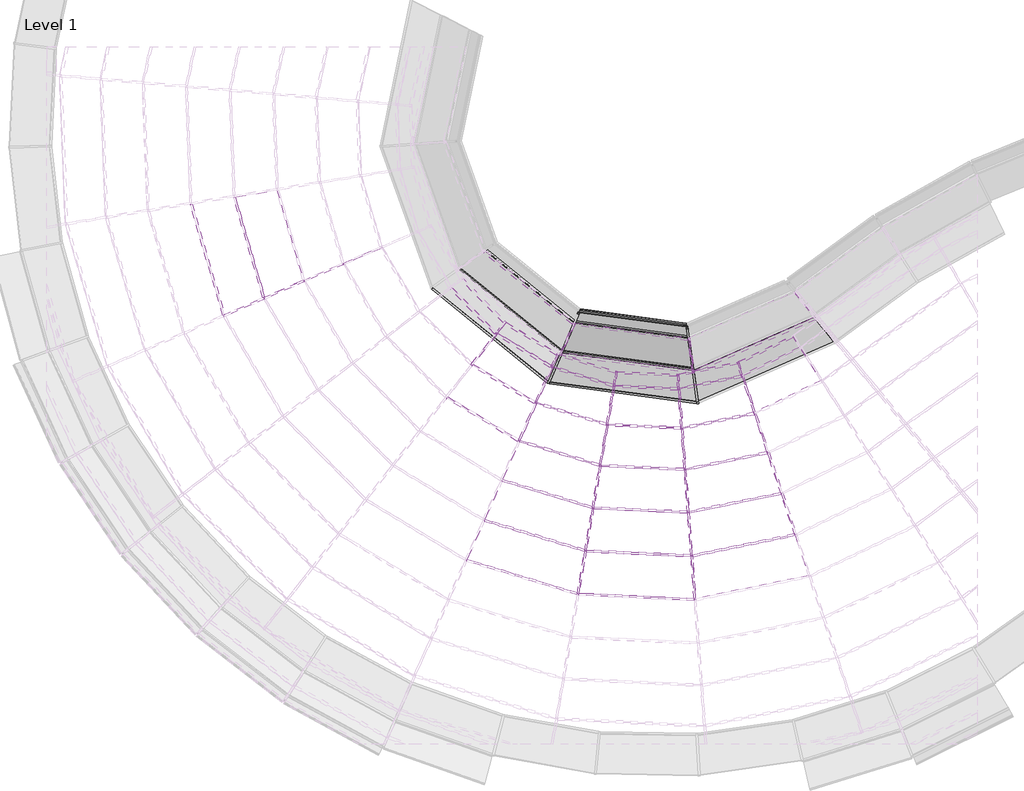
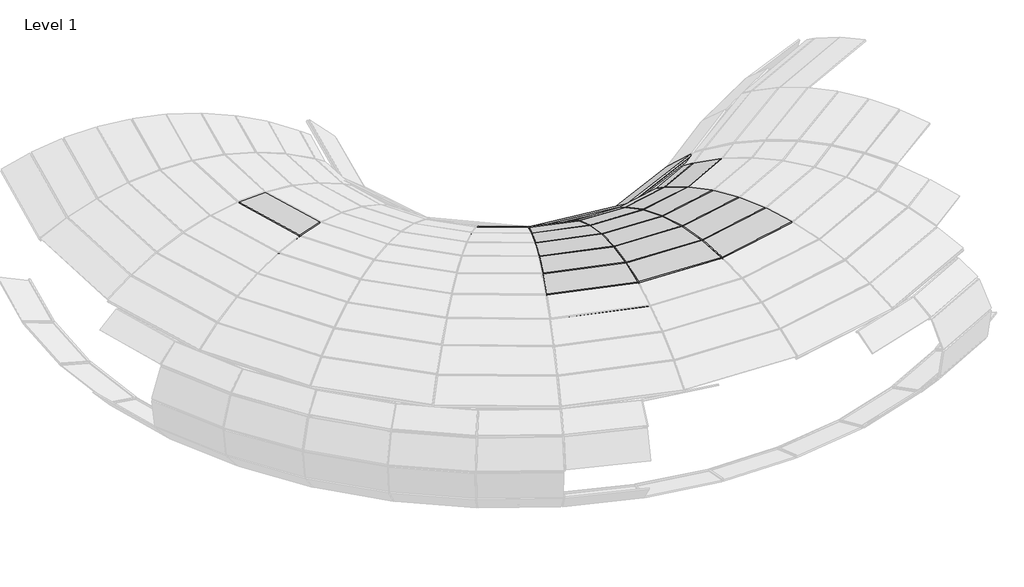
# One storey, part 5 of 23: 75 members, 29 plates.
"""IFC4 building model written with IfcOpenShell, lengths in millimetres."""

from ifc_helpers import new_model, si_unit, origin, place, context, project, spatial, transform, mapped, element, save
from components import member_0cd36c09, member_d0a40a1c, member_ff9adfd2, member_8c9da58c, member_391bee44, member_01ebdf2a, member_d6b8231b, member_c876edb5, member_782630c7, member_398e5ff5, member_01d9c279, member_398607d0, member_5ccaa950, member_8174f0e4, member_18f2ae55, member_299080b6, member_cb0bb3a9, member_172ab1ab, member_54499f2f, member_c8b9029b, system_panel_glazed_1f33159c, system_panel_glazed_b4bd1deb, system_panel_glazed_ffd0fcf6, system_panel_glazed_fd5b3178, system_panel_glazed_7646b435, system_panel_glazed_4562f0d4, system_panel_glazed_e73db01d, system_panel_glazed_0c479225, system_panel_glazed_18224c41, system_panel_glazed_5bffbcfe, system_panel_glazed_024423c3

model = new_model("IFC4")

# Units and contexts
model_context = context("Model", 3, world=origin())
ifc_project = project(units=[si_unit("LENGTHUNIT", "METRE", prefix="MILLI")], contexts=[model_context])

# Site, building, storey
site = spatial("IfcSite", under=ifc_project)
building = spatial("IfcBuilding", under=site)
storey = spatial("IfcBuildingStorey", under=building, Name="Level 1", Elevation=0.0)

# Members
placement = place(None, origin())
member_shape = member_0cd36c09(model_context)
element("IfcMember", 1, ObjectType="Rectangular Mullion : 1\" Square", at=placement, inside=storey, context=model_context, shape_type="MappedRepresentation", body=[
    mapped(member_shape, transform((-9408.8128486, -7923.9821963, 2850.17796), x_axis=(0.9970757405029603, 0.07641968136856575, 0.0), y_axis=(0.0017980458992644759, -0.023459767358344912, 0.9997231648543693), z_axis=(0.07639852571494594, -0.9967997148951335, -0.023528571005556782))),
])
element("IfcMember", 2, ObjectType="Rectangular Mullion : 1\" Square", at=placement, inside=storey, context=model_context, shape_type="MappedRepresentation", body=[
    mapped(member_shape, transform((-14848.6521933, -3488.9764572, 2806.2019711), x_axis=(0.39821020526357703, -0.9172941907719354, 0.0), y_axis=(0.19584496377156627, 0.08501903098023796, 0.9769424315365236), z_axis=(-0.8961436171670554, -0.3890284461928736, 0.2135028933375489))),
])
element("IfcMember", 3, ObjectType="Rectangular Mullion : 1\" Square", at=placement, inside=storey, context=model_context, shape_type="MappedRepresentation", body=[
    mapped(member_shape, transform((-14302.3630442, -3251.8247164, 2676.0506073), x_axis=(0.3982102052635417, -0.9172941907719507, 0.0), y_axis=(0.30114838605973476, 0.13073271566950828, 0.9445732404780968), z_axis=(-0.8664515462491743, -0.37613870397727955, 0.32830076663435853))),
])
element("IfcMember", 4, ObjectType="Rectangular Mullion : 1\" Square", at=placement, inside=storey, context=model_context, shape_type="MappedRepresentation", body=[
    mapped(member_shape, transform((-11858.0187831, -5718.3445899, 2676.0506073), x_axis=(0.9136605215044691, -0.4064781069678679, 0.0), y_axis=(0.13344707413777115, 0.2999554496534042, 0.9445732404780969), z_axis=(-0.3839483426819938, -0.8630192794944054, 0.32830076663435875))),
])
element("IfcMember", 5, ObjectType="Rectangular Mullion : 1\" Square", at=placement, inside=storey, context=model_context, shape_type="MappedRepresentation", body=[
    mapped(member_shape, transform((-10828.8451676, -6648.5143015, 2806.2019711), x_axis=(0.9854064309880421, -0.17021799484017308, 0.0), y_axis=(0.0363420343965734, 0.21038712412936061, 0.9769424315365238), z_axis=(-0.16629318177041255, -0.9626853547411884, 0.2135028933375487))),
])
element("IfcMember", 6, ObjectType="Rectangular Mullion : 1\" Square", at=placement, inside=storey, context=model_context, shape_type="MappedRepresentation", body=[
    mapped(member_shape, transform((-10727.472844, -6061.6613092, 2676.0506073), x_axis=(0.9854064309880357, -0.17021799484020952, 0.0), y_axis=(0.05588269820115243, 0.32350968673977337, 0.944573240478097), z_axis=(-0.16078336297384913, -0.9307885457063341, 0.3283007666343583))),
])
element("IfcMember", 7, ObjectType="Rectangular Mullion : 1\" Square", at=placement, inside=storey, context=model_context, shape_type="MappedRepresentation", body=[
    mapped(member_shape, transform((-9455.3853899, -7316.3330901, 2864.5209769), x_axis=(0.9970757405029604, 0.07641968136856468, 0.0), y_axis=(-0.007310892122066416, 0.09538790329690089, 0.9954133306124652), z_axis=(0.07606916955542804, -0.9925024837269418, 0.09566766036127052))),
])
element("IfcMember", 8, ObjectType="Rectangular Mullion : 1\" Square", at=placement, inside=storey, context=model_context, shape_type="MappedRepresentation", body=[
    mapped(member_shape, transform((-9501.7571556, -6711.303576, 2806.2019711), x_axis=(0.9970757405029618, 0.07641968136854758, 0.0), y_axis=(-0.01631582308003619, 0.21287855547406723, 0.9769424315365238), z_axis=(0.07465762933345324, -0.9740855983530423, 0.2135028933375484))),
])
element("IfcMember", 9, ObjectType="Rectangular Mullion : 1\" Square", at=placement, inside=storey, context=model_context, shape_type="MappedRepresentation", body=[
    mapped(member_shape, transform((-9547.2684465, -6117.5009953, 2676.0506073), x_axis=(0.9970757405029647, 0.0764196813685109, 0.0), y_axis=(-0.025088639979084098, 0.3273407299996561, 0.9445732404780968), z_axis=(0.07218398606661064, -0.9418110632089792, 0.328300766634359))),
])
element("IfcMember", 10, ObjectType="Rectangular Mullion : 1\" Square", at=placement, inside=storey, context=model_context, shape_type="MappedRepresentation", body=[
    mapped(member_shape, transform((-8006.5326853, -7022.2335982, 2864.5209769), x_axis=(0.9479570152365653, 0.31839833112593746, 0.0), y_axis=(-0.030460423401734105, 0.09068882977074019, 0.9954133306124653), z_axis=(0.3169379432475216, -0.9436090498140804, 0.09566766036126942))),
])
element("IfcMember", 11, ObjectType="Rectangular Mullion : 1\" Square", at=placement, inside=storey, context=model_context, shape_type="MappedRepresentation", body=[
    mapped(member_shape, transform((-8199.7380555, -6447.0095214, 2806.2019711), x_axis=(0.9479570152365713, 0.31839833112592, 0.0), y_axis=(-0.06797896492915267, 0.202391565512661, 0.9769424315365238), z_axis=(0.3110568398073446, -0.9260994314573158, 0.21350289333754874))),
])
element("IfcMember", 12, ObjectType="Rectangular Mullion : 1\" Square", at=placement, inside=storey, context=model_context, shape_type="MappedRepresentation", body=[
    mapped(member_shape, transform((-8389.358305, -5882.459308, 2676.0506073), x_axis=(0.9479570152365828, 0.3183983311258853, 0.0), y_axis=(-0.1045304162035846, 0.31121501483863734, 0.9445732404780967), z_axis=(0.30075054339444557, -0.8954148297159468, 0.32830076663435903))),
])
member_2_shape = member_d0a40a1c(model_context)
element("IfcMember", 13, ObjectType="Rectangular Mullion : 1\" Square", at=placement, inside=storey, context=model_context, shape_type="MappedRepresentation", body=[
    mapped(member_2_shape, transform((-12514.1542272, -4655.7713534, 2475.91846), x_axis=(0.786212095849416, -0.6179567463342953, 0.0), y_axis=(0.2709296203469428, 0.3446974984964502, 0.8987662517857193), z_axis=(-0.5553986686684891, -0.7066208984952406, 0.4384281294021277))),
])
element("IfcMember", 14, ObjectType="Rectangular Mullion : 1\" Square", at=placement, inside=storey, context=model_context, shape_type="MappedRepresentation", body=[
    mapped(member_2_shape, transform((-11623.9638734, -5192.2480371, 2475.91846), x_axis=(0.9136605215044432, -0.40647810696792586, 0.0), y_axis=(0.17821143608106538, 0.40057447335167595, 0.8987662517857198), z_axis=(-0.3653288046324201, -0.8211672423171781, 0.438428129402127))),
])
element("IfcMember", 15, ObjectType="Rectangular Mullion : 1\" Square", at=placement, inside=storey, context=model_context, shape_type="MappedRepresentation", body=[
    mapped(member_2_shape, transform((-10629.4593059, -5494.2526118, 2475.91846), x_axis=(0.9854064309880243, -0.17021799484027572, 0.0), y_axis=(0.07462835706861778, 0.4320298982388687, 0.8987662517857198), z_axis=(-0.15298618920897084, -0.8856500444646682, 0.43842812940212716))),
])
element("IfcMember", 16, ObjectType="Rectangular Mullion : 1\" Square", at=placement, inside=storey, context=model_context, shape_type="MappedRepresentation", body=[
    mapped(member_2_shape, transform((-9591.2718044, -5543.3729712, 2475.91846), x_axis=(0.9970757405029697, 0.07641968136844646, 0.0), y_axis=(-0.03350453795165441, 0.43714605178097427, 0.89876625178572), z_axis=(0.06868343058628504, -0.8961380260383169, 0.43842812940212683))),
])
element("IfcMember", 17, ObjectType="Rectangular Mullion : 1\" Square", at=placement, inside=storey, context=model_context, shape_type="MappedRepresentation", body=[
    mapped(member_2_shape, transform((-8572.6958363, -5336.6144278, 2475.91846), x_axis=(0.9479570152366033, 0.31839833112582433, 0.0), y_axis=(-0.1395947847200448, 0.41561102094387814, 0.8987662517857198), z_axis=(0.28616567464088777, -0.851991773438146, 0.4384281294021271))),
])
member_3_shape = member_ff9adfd2(model_context)
element("IfcMember", 18, ObjectType="Rectangular Mullion : 1\" Square", at=placement, inside=storey, context=model_context, shape_type="MappedRepresentation", body=[
    mapped(member_3_shape, transform((-12175.5831987, -4225.0152537, 2208.6526723), x_axis=(0.7862120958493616, -0.6179567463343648, 0.0), y_axis=(0.3161500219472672, 0.4022303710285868, 0.8592205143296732), z_axis=(-0.5309611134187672, -0.6755295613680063, 0.5116054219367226))),
])
element("IfcMember", 19, ObjectType="Rectangular Mullion : 1\" Square", at=placement, inside=storey, context=model_context, shape_type="MappedRepresentation", body=[
    mapped(member_3_shape, transform((-11401.2594341, -4691.6644862, 2208.6526723), x_axis=(0.913660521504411, -0.40647810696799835, 0.0), y_axis=(0.20795640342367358, 0.46743367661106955, 0.8592205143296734), z_axis=(-0.3492543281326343, -0.7850358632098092, 0.5116054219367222))),
])
element("IfcMember", 20, ObjectType="Rectangular Mullion : 1\" Square", at=placement, inside=storey, context=model_context, shape_type="MappedRepresentation", body=[
    mapped(member_3_shape, transform((-10536.1989249, -4954.3603447, 2208.6526723), x_axis=(0.985406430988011, -0.1702179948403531, 0.0), y_axis=(0.08708444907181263, 0.5041392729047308, 0.8592205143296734), z_axis=(-0.1462547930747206, -0.8466814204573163, 0.5116054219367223))),
])
element("IfcMember", 21, ObjectType="Rectangular Mullion : 1\" Square", at=placement, inside=storey, context=model_context, shape_type="MappedRepresentation", body=[
    mapped(member_3_shape, transform((-9633.1412237, -4997.0872305, 2208.6526723), x_axis=(0.997075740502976, 0.07641968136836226, 0.0), y_axis=(-0.03909672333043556, 0.510109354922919, 0.8592205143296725), z_axis=(0.06566135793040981, -0.8567079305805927, 0.5116054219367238))),
])
element("IfcMember", 22, ObjectType="Rectangular Mullion : 1\" Square", at=placement, inside=storey, context=model_context, shape_type="MappedRepresentation", body=[
    mapped(member_3_shape, transform((-8747.1424315, -4817.2402427, 2208.6526723), x_axis=(0.9479570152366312, 0.31839833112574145, 0.0), y_axis=(-0.16289431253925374, 0.48497994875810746, 0.859220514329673), z_axis=(0.2735743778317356, -0.8145041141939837, 0.5116054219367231))),
])
element("IfcMember", 23, ObjectType="Rectangular Mullion : 1\" Square", at=placement, inside=storey, context=model_context, shape_type="MappedRepresentation", body=[
    mapped(member_shape, transform((-15964.2976838, -3973.2937289, 2850.17796), x_axis=(0.3982102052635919, -0.9172941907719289, 0.0), y_axis=(-0.021582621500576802, -0.009369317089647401, 0.9997231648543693), z_axis=(-0.9170402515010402, -0.398099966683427, -0.023528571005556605))),
])
element("IfcMember", 24, ObjectType="Rectangular Mullion : 1\" Square", at=placement, inside=storey, context=model_context, shape_type="MappedRepresentation", body=[
    mapped(member_shape, transform((-11035.8702859, -7847.0002967, 2850.17796), x_axis=(0.9854064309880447, -0.17021799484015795, 0.0), y_axis=(-0.004004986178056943, -0.023185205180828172, 0.9997231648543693), z_axis=(-0.17017087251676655, -0.985133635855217, -0.023528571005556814))),
])
element("IfcMember", 25, ObjectType="Rectangular Mullion : 1\" Square", at=placement, inside=storey, context=model_context, shape_type="MappedRepresentation", body=[
    mapped(member_shape, transform((-15405.2699465, -3730.6119892, 2864.5209769), x_axis=(0.39821020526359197, -0.9172941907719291, 0.0), y_axis=(0.08775538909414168, 0.03809583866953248, 0.9954133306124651), z_axis=(-0.9130868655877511, -0.396383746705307, 0.09566766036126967))),
])
element("IfcMember", 26, ObjectType="Rectangular Mullion : 1\" Square", at=placement, inside=storey, context=model_context, shape_type="MappedRepresentation", body=[
    mapped(member_shape, transform((-10932.134122, -7246.4628323, 2864.5209769), x_axis=(0.9854064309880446, -0.17021799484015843, 0.0), y_axis=(0.016284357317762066, 0.09427152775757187, 0.9954133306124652), z_axis=(-0.16943726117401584, -0.9808866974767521, 0.09566766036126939))),
])
member_4_shape = member_8c9da58c(model_context)
element("IfcMember", 27, ObjectType="Rectangular Mullion : 1\" Square", at=placement, inside=storey, context=model_context, shape_type="MappedRepresentation", body=[
    mapped(member_4_shape, transform((-11094.1302391, -4088.1775514, 1696.6281859), x_axis=(0.9184038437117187, -0.3956442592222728, 0.0), y_axis=(0.37671639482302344, 0.8744668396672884, 0.3056018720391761), z_axis=(-0.12090962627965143, -0.28066593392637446, 0.9521593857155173))),
])
element("IfcMember", 28, ObjectType="Rectangular Mullion : 1\" Square", at=placement, inside=storey, context=model_context, shape_type="MappedRepresentation", body=[
    mapped(member_4_shape, transform((-9495.7717867, -4302.488411, 1696.6281859), x_axis=(0.9901887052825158, 0.13973663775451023, 0.0), y_axis=(-0.1330515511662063, 0.9428174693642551, 0.30560187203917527), z_axis=(0.04270377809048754, -0.3026035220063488, 0.9521593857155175))),
])
element("IfcMember", 29, ObjectType="Rectangular Mullion : 1\" Square", at=placement, inside=storey, context=model_context, shape_type="MappedRepresentation", body=[
    mapped(member_4_shape, transform((-9521.8040098, -4118.021304, 1116.1918244), x_axis=(0.9901887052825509, 0.1397366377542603, 0.0), y_axis=(-0.13512456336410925, 0.957507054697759, -0.254797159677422), z_axis=(-0.03560449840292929, 0.2522972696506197, 0.9669945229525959))),
])
member_5_shape = member_391bee44(model_context)
element("IfcMember", 30, ObjectType="Rectangular Mullion : 1\" Square", at=placement, inside=storey, context=model_context, shape_type="MappedRepresentation", body=[
    mapped(member_5_shape, transform((-11081.8769177, -4059.7340768, 526.7119632), x_axis=(0.9184038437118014, -0.39564425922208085, 0.0), y_axis=(0.2682211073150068, 0.6226181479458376, -0.7351218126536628), z_axis=(0.29084672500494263, 0.6751386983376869, 0.6779350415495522))),
])
element("IfcMember", 31, ObjectType="Rectangular Mullion : 1\" Square", at=placement, inside=storey, context=model_context, shape_type="MappedRepresentation", body=[
    mapped(member_5_shape, transform((-9500.0995076, -4271.8217196, 526.7119632), x_axis=(0.9901887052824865, 0.1397366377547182, 0.0), y_axis=(-0.09473236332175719, 0.671283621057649, -0.7351218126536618), z_axis=(-0.10272345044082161, 0.7279093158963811, 0.6779350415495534))),
])
member_6_shape = member_01ebdf2a(model_context)
element("IfcMember", 32, ObjectType="Rectangular Mullion : 1\" Square", at=placement, inside=storey, context=model_context, shape_type="MappedRepresentation", body=[
    mapped(member_6_shape, transform((-11259.1770813, -4471.2986273, 113.4427618), x_axis=(0.9184038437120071, -0.39564425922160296, 0.0), y_axis=(0.09036089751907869, 0.20975356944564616, -0.9735698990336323), z_axis=(0.3851873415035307, 0.8941303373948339, 0.22838925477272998))),
])
element("IfcMember", 33, ObjectType="Rectangular Mullion : 1\" Square", at=placement, inside=storey, context=model_context, shape_type="MappedRepresentation", body=[
    mapped(member_6_shape, transform((-9437.4792922, -4715.5552385, 113.4427618), x_axis=(0.9901887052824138, 0.1397366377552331, 0.0), y_axis=(-0.03191434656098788, 0.226148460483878, -0.9735698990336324), z_axis=(-0.13604338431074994, 0.9640179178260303, 0.22838925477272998))),
])
member_7_shape = member_d6b8231b(model_context)
element("IfcMember", 34, ObjectType="Rectangular Mullion : 1\" Square", at=placement, inside=storey, context=model_context, shape_type="MappedRepresentation", body=[
    mapped(member_7_shape, transform((-9430.183911, -4767.2510875, 2085.6089632), x_axis=(0.9901887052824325, 0.13973663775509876, 0.0), y_axis=(-0.08916480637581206, 0.6318313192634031, 0.769960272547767), z_axis=(0.10759165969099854, -0.7624059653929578, 0.6380918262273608))),
])
element("IfcMember", 35, ObjectType="Rectangular Mullion : 1\" Square", at=placement, inside=storey, context=model_context, shape_type="MappedRepresentation", body=[
    mapped(member_7_shape, transform((-11279.8329075, -4519.2467266, 2085.6089632), x_axis=(0.9184038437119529, -0.39564425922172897, 0.0), y_axis=(0.2524573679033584, 0.5860259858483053, 0.7699602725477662), z_axis=(-0.30463036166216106, -0.7071344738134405, 0.6380918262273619))),
])
member_8_shape = member_c876edb5(model_context)
element("IfcMember", 36, ObjectType="Rectangular Mullion : 1\" Square", at=placement, inside=storey, context=model_context, shape_type="MappedRepresentation", body=[
    mapped(member_8_shape, transform((-11868.8961869, -5711.7892801, 2676.0506073), x_axis=(0.4970218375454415, 0.8247218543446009, -0.26982059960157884), y_axis=(0.13927225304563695, 0.23109823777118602, 0.9629106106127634), z_axis=(0.8564884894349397, -0.5161661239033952, 0.0))),
])
element("IfcMember", 37, ObjectType="Rectangular Mullion : 1\" Square", at=placement, inside=storey, context=model_context, shape_type="MappedRepresentation", body=[
    mapped(member_8_shape, transform((-10739.6248828, -6057.9710584, 2676.0506073), x_axis=(0.27979383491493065, 0.921364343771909, -0.26982059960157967), y_axis=(0.07840202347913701, 0.2581787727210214, 0.9629106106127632), z_axis=(0.9568534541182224, -0.29057093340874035, 0.0))),
])
element("IfcMember", 38, ObjectType="Rectangular Mullion : 1\" Square", at=placement, inside=storey, context=model_context, shape_type="MappedRepresentation", body=[
    mapped(member_8_shape, transform((-9559.9542553, -6116.9007844, 2676.0506073), x_axis=(0.04550783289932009, 0.961834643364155, -0.2698205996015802), y_axis=(0.012751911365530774, 0.2695190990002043, 0.962910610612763), z_axis=(0.9988825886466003, -0.04726070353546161, 0.0))),
])
element("IfcMember", 39, ObjectType="Rectangular Mullion : 1\" Square", at=placement, inside=storey, context=model_context, shape_type="MappedRepresentation", body=[
    mapped(member_8_shape, transform((-8401.8044769, -5884.9857297, 2676.0506073), x_axis=(-0.1915526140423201, 0.9436654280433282, -0.26982059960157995), y_axis=(-0.05367563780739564, 0.26442783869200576, 0.9629106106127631), z_axis=(0.9800135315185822, 0.19893083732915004, 0.0))),
])
member_9_shape = member_782630c7(model_context)
element("IfcMember", 40, ObjectType="Rectangular Mullion : 1\" Square", at=placement, inside=storey, context=model_context, shape_type="MappedRepresentation", body=[
    mapped(member_9_shape, transform((-11634.8412772, -5185.6927273, 2475.91846), x_axis=(0.47703912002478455, 0.7915639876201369, -0.3819163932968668), y_axis=(0.19713230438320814, 0.32710699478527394, 0.924196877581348), z_axis=(0.8564884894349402, -0.5161661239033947, 0.0))),
])
element("IfcMember", 41, ObjectType="Rectangular Mullion : 1\" Square", at=placement, inside=storey, context=model_context, shape_type="MappedRepresentation", body=[
    mapped(member_9_shape, transform((-10641.6113447, -5490.5623609, 2475.91846), x_axis=(0.2685447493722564, 0.8843209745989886, -0.3819163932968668), y_axis=(0.1109738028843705, 0.36543802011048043, 0.9241968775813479), z_axis=(0.9568534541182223, -0.29057093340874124, 0.0))),
])
element("IfcMember", 42, ObjectType="Rectangular Mullion : 1\" Square", at=placement, inside=storey, context=model_context, shape_type="MappedRepresentation", body=[
    mapped(member_9_shape, transform((-9603.9576132, -5542.7727602, 2475.91846), x_axis=(0.04367819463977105, 0.9231641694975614, -0.3819163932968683), y_axis=(0.01804963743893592, 0.38148963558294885, 0.9241968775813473), z_axis=(0.9988825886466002, -0.04726070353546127, 0.0))),
])
element("IfcMember", 43, ObjectType="Rectangular Mullion : 1\" Square", at=placement, inside=storey, context=model_context, shape_type="MappedRepresentation", body=[
    mapped(member_9_shape, transform((-8585.1420081, -5339.1408495, 2475.91846), x_axis=(-0.18385125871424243, 0.9057254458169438, -0.381916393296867), y_axis=(-0.0759749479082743, 0.37428323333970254, 0.9241968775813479), z_axis=(0.9800135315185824, 0.19893083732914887, 0.0))),
])
member_10_shape = member_398e5ff5(model_context)
element("IfcMember", 44, ObjectType="Rectangular Mullion : 1\" Square", at=placement, inside=storey, context=model_context, shape_type="MappedRepresentation", body=[
    mapped(member_10_shape, transform((-12184.5228123, -4215.9945381, 2208.6526723), x_axis=(0.6196664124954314, 0.6140952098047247, -0.48877460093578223), y_axis=(0.3471729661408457, 0.34405165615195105, 0.8724101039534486), z_axis=(0.7039065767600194, -0.7102925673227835, 0.0))),
])
element("IfcMember", 45, ObjectType="Rectangular Mullion : 1\" Square", at=placement, inside=storey, context=model_context, shape_type="MappedRepresentation", body=[
    mapped(member_10_shape, transform((-11412.1368379, -4685.1091764, 2208.6526723), x_axis=(0.45030854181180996, 0.7472092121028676, -0.4887746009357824), y_axis=(0.2522888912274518, 0.41862981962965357, 0.8724101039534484), z_axis=(0.8564884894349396, -0.5161661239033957, 0.0))),
])
element("IfcMember", 46, ObjectType="Rectangular Mullion : 1\" Square", at=placement, inside=storey, context=model_context, shape_type="MappedRepresentation", body=[
    mapped(member_10_shape, transform((-10548.3509638, -4950.6700938, 2208.6526723), x_axis=(0.25349701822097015, 0.8347686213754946, -0.4887746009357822), y_axis=(0.1420236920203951, 0.467685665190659, 0.8724101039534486), z_axis=(0.9568534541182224, -0.2905709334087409, 0.0))),
])
element("IfcMember", 47, ObjectType="Rectangular Mullion : 1\" Square", at=placement, inside=storey, context=model_context, shape_type="MappedRepresentation", body=[
    mapped(member_10_shape, transform((-9645.8270325, -4996.4870195, 2208.6526723), x_axis=(0.04123071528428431, 0.8714352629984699, -0.48877460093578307), y_axis=(0.02309983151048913, 0.4882284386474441, 0.8724101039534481), z_axis=(0.9988825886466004, -0.04726070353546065, 0.0))),
])
element("IfcMember", 48, ObjectType="Rectangular Mullion : 1\" Square", at=placement, inside=storey, context=model_context, shape_type="MappedRepresentation", body=[
    mapped(member_10_shape, transform((-8759.5886034, -4819.7666644, 2208.6526723), x_axis=(-0.17354927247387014, 0.8549737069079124, -0.4887746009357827), y_axis=(-0.0972323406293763, 0.47900572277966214, 0.8724101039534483), z_axis=(0.9800135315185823, 0.19893083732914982, 0.0))),
])
member_11_shape = member_01d9c279(model_context)
element("IfcMember", 49, ObjectType="Rectangular Mullion : 1\" Square", at=placement, inside=storey, context=model_context, shape_type="MappedRepresentation", body=[
    mapped(member_11_shape, transform((-15967.8780384, -3961.1088587, 2850.17796), x_axis=(0.9561921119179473, 0.2809637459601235, 0.08219500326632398), y_axis=(-0.07886105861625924, -0.02317222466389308, 0.9966162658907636), z_axis=(0.2819176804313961, -0.9594385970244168, 0.0))),
])
element("IfcMember", 50, ObjectType="Rectangular Mullion : 1\" Square", at=placement, inside=storey, context=model_context, shape_type="MappedRepresentation", body=[
    mapped(member_11_shape, transform((-11048.0223247, -7843.3100458, 2850.17796), x_axis=(0.28958771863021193, 0.9536157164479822, 0.08219500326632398), y_axis=(-0.02388347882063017, -0.07864857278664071, 0.9966162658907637), z_axis=(0.9568534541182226, -0.2905709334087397, 0.0))),
])
element("IfcMember", 51, ObjectType="Rectangular Mullion : 1\" Square", at=placement, inside=storey, context=model_context, shape_type="MappedRepresentation", body=[
    mapped(member_11_shape, transform((-9421.4986575, -7923.3819854, 2850.17796), x_axis=(0.047100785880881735, 0.9955026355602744, 0.08219500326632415), y_axis=(-0.003884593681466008, -0.08210315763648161, 0.9966162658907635), z_axis=(0.9988825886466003, -0.04726070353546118, 0.0))),
])
member_12_shape = member_398607d0(model_context)
element("IfcMember", 52, ObjectType="Rectangular Mullion : 1\" Square", at=placement, inside=storey, context=model_context, shape_type="MappedRepresentation", body=[
    mapped(member_12_shape, transform((-15408.8503011, -3718.427119, 2864.5209769), x_axis=(0.9588108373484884, 0.281733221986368, -0.03616863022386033), y_axis=(0.034701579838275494, 0.010196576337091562, 0.9993457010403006), z_axis=(0.2819176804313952, -0.959438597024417, 0.0))),
])
element("IfcMember", 53, ObjectType="Rectangular Mullion : 1\" Square", at=placement, inside=storey, context=model_context, shape_type="MappedRepresentation", body=[
    mapped(member_12_shape, transform((-10944.2861608, -7242.7725814, 2864.5209769), x_axis=(0.2903808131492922, 0.956227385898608, -0.03616863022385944), y_axis=(0.01050955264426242, 0.03460807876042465, 0.9993457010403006), z_axis=(0.9568534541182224, -0.29057093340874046, 0.0))),
])
element("IfcMember", 54, ObjectType="Rectangular Mullion : 1\" Square", at=placement, inside=storey, context=model_context, shape_type="MappedRepresentation", body=[
    mapped(member_12_shape, transform((-9468.0711987, -7315.7328792, 2864.5209769), x_axis=(0.04722978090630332, 0.9982290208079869, -0.03616863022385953), y_axis=(0.0017093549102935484, 0.036128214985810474, 0.9993457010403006), z_axis=(0.9988825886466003, -0.047260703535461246, 0.0))),
])
element("IfcMember", 55, ObjectType="Rectangular Mullion : 1\" Square", at=placement, inside=storey, context=model_context, shape_type="MappedRepresentation", body=[
    mapped(member_12_shape, transform((-8018.9788571, -7024.7600198, 2864.5209769), x_axis=(-0.19880067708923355, 0.9793723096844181, -0.03616863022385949), y_axis=(-0.007195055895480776, 0.03544574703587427, 0.9993457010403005), z_axis=(0.9800135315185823, 0.19893083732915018, 0.0))),
])
member_13_shape = member_5ccaa950(model_context)
element("IfcMember", 56, ObjectType="Rectangular Mullion : 1\" Square", at=placement, inside=storey, context=model_context, shape_type="MappedRepresentation", body=[
    mapped(member_13_shape, transform((-10840.9972064, -6644.8240506, 2806.2019711), x_axis=(0.2871027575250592, 0.9454327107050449, -0.15404218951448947), y_axis=(0.04476018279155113, 0.14739580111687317, 0.9880642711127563), z_axis=(0.9568534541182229, -0.29057093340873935, 0.0))),
])
element("IfcMember", 57, ObjectType="Rectangular Mullion : 1\" Square", at=placement, inside=storey, context=model_context, shape_type="MappedRepresentation", body=[
    mapped(member_13_shape, transform((-9514.4429645, -6710.7033651, 2806.2019711), x_axis=(0.04669661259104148, 0.9869601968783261, -0.1540421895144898), y_axis=(0.007280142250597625, 0.15387006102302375, 0.9880642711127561), z_axis=(0.9988825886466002, -0.04726070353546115, 0.0))),
])
element("IfcMember", 58, ObjectType="Rectangular Mullion : 1\" Square", at=placement, inside=storey, context=model_context, shape_type="MappedRepresentation", body=[
    mapped(member_13_shape, transform((-8212.1842273, -6449.5359431, 2806.2019711), x_axis=(-0.19655645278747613, 0.9683163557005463, -0.1540421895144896), y_axis=(-0.03064374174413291, 0.1509634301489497, 0.9880642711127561), z_axis=(0.9800135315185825, 0.19893083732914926, 0.0))),
])
member_14_shape = member_8174f0e4(model_context)
element("IfcMember", 59, ObjectType="Rectangular Mullion : 1\" Square", at=placement, inside=storey, context=model_context, shape_type="MappedRepresentation", body=[
    mapped(member_14_shape, transform((-12056.8239607, -4053.5262386, 2085.6089632), x_axis=(0.6090655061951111, 0.6035896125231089, -0.5145082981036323), y_axis=(0.3654514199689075, 0.36216577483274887, 0.8574853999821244), z_axis=(0.7039065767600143, -0.7102925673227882, 0.0))),
])
element("IfcMember", 60, ObjectType="Rectangular Mullion : 1\" Square", at=placement, inside=storey, context=model_context, shape_type="MappedRepresentation", body=[
    mapped(member_14_shape, transform((-11328.1393936, -4496.3040537, 2085.6089632), x_axis=(0.44260491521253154, 0.7344263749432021, -0.5145082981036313), y_axis=(0.26557175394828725, 0.4406704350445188, 0.8574853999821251), z_axis=(0.8564884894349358, -0.5161661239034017, 0.0))),
])
element("IfcMember", 61, ObjectType="Rectangular Mullion : 1\" Square", at=placement, inside=storey, context=model_context, shape_type="MappedRepresentation", body=[
    mapped(member_14_shape, transform((-10513.1759413, -4747.0389008, 2085.6089632), x_axis=(0.2491603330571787, 0.82048786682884, -0.5145082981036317), y_axis=(0.14950115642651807, 0.49230904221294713, 0.8574853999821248), z_axis=(0.9568534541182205, -0.2905709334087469, 0.0))),
])
element("IfcMember", 62, ObjectType="Rectangular Mullion : 1\" Square", at=placement, inside=storey, context=model_context, shape_type="MappedRepresentation", body=[
    mapped(member_14_shape, transform((-9661.6189235, -4790.4443997, 2085.6089632), x_axis=(0.04052536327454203, 0.8565272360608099, -0.5145082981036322), y_axis=(0.02431602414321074, 0.5139333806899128, 0.8574853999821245), z_axis=(0.9988825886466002, -0.04726070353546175, 0.0))),
])
element("IfcMember", 63, ObjectType="Rectangular Mullion : 1\" Square", at=placement, inside=storey, context=model_context, shape_type="MappedRepresentation", body=[
    mapped(member_14_shape, transform((-8825.3846343, -4623.8742773, 2085.6089632), x_axis=(-0.1705802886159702, 0.8403472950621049, -0.5145082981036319), y_axis=(-0.10235156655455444, 0.5042250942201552, 0.8574853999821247), z_axis=(0.9800135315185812, 0.1989308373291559, 0.0))),
])
element("IfcMember", 64, ObjectType="Rectangular Mullion : 1\" Square", at=placement, inside=storey, context=model_context, shape_type="MappedRepresentation", body=[
    mapped(member_14_shape, transform((-8055.455198, -4257.4837002, 2085.6089632), x_axis=(-0.3712862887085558, 0.7729344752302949, -0.5145082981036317), y_axis=(-0.22277915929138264, 0.463776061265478, 0.8574853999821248), z_axis=(0.9013966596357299, 0.4329942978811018, 0.0))),
])
member_15_shape = member_18f2ae55(model_context)
element("IfcMember", 65, ObjectType="Rectangular Mullion : 1\" Square", at=placement, inside=storey, context=model_context, shape_type="MappedRepresentation", body=[
    mapped(member_15_shape, transform((-11104.0034032, -4080.1893958, 1696.6281859), x_axis=(0.36035852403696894, 0.4453942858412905, -0.8196131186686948), y_axis=(0.5155273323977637, 0.6371791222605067, 0.5729173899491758), z_axis=(0.7774144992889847, -0.6289886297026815, 0.0))),
])
element("IfcMember", 66, ObjectType="Rectangular Mullion : 1\" Square", at=placement, inside=storey, context=model_context, shape_type="MappedRepresentation", body=[
    mapped(member_15_shape, transform((-9508.3591434, -4300.8006749, 1696.6281859), x_axis=(0.076136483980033, 0.567835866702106, -0.8196131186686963), y_axis=(0.10892052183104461, 0.8123435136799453, 0.5729173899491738), z_axis=(0.991130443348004, -0.13289260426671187, 0.0))),
])
member_16_shape = member_299080b6(model_context)
element("IfcMember", 67, ObjectType="Rectangular Mullion : 1\" Square", at=placement, inside=storey, context=model_context, shape_type="MappedRepresentation", body=[
    mapped(member_16_shape, transform((-9534.3913665, -4116.3335679, 1116.1918244), x_axis=(0.003636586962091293, 0.027122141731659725, -0.9996255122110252), y_axis=(0.1328428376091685, 0.9907592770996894, 0.027364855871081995), z_axis=(0.9911304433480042, -0.13289260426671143, 0.0))),
])
member_17_shape = member_cb0bb3a9(model_context)
element("IfcMember", 68, ObjectType="Rectangular Mullion : 1\" Square", at=placement, inside=storey, context=model_context, shape_type="MappedRepresentation", body=[
    mapped(member_17_shape, transform((-11269.0502454, -4463.3104717, 113.4427618), x_axis=(-0.5666265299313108, -0.7003364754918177, -0.4341234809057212), y_axis=(0.27305873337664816, 0.3374938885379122, -0.9008533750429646), z_axis=(0.7774144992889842, -0.6289886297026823, 0.0))),
])
element("IfcMember", 69, ObjectType="Rectangular Mullion : 1\" Square", at=placement, inside=storey, context=model_context, shape_type="MappedRepresentation", body=[
    mapped(member_17_shape, transform((-9450.0666489, -4713.8675024, 113.4427618), x_axis=(-0.11971675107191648, -0.8928632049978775, -0.43412348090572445), y_axis=(0.057691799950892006, 0.43027299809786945, -0.9008533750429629), z_axis=(0.991130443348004, -0.13289260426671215, 0.0))),
])
member_18_shape = member_172ab1ab(model_context)
element("IfcMember", 70, ObjectType="Rectangular Mullion : 1\" Square", at=placement, inside=storey, context=model_context, shape_type="MappedRepresentation", body=[
    mapped(member_18_shape, transform((-11460.3758657, -4907.4321315, 0.0), x_axis=(-0.6111115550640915, -0.7553188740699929, -0.23671938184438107), y_axis=(0.1488937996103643, 0.18402907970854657, -0.9715780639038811), z_axis=(0.7774144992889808, -0.6289886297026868, 0.0))),
])
element("IfcMember", 71, ObjectType="Rectangular Mullion : 1\" Square", at=placement, inside=storey, context=model_context, shape_type="MappedRepresentation", body=[
    mapped(member_18_shape, transform((-9382.4928164, -5192.7028801, 0.0), x_axis=(-0.12911553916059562, -0.9629605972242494, -0.23671938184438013), y_axis=(0.031458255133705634, 0.234619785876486, -0.9715780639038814), z_axis=(0.9911304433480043, -0.13289260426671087, 0.0))),
])
member_19_shape = member_54499f2f(model_context)
element("IfcMember", 72, ObjectType="Rectangular Mullion : 1\" Square", at=placement, inside=storey, context=model_context, shape_type="MappedRepresentation", body=[
    mapped(member_19_shape, transform((-11091.7500818, -4051.7459212, 526.7119632), x_axis=(-0.3322238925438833, -0.4106205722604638, -0.8491278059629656), y_axis=(0.5340917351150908, 0.6601242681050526, -0.5281874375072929), z_axis=(0.7774144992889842, -0.6289886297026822, 0.0))),
])
element("IfcMember", 73, ObjectType="Rectangular Mullion : 1\" Square", at=placement, inside=storey, context=model_context, shape_type="MappedRepresentation", body=[
    mapped(member_19_shape, transform((-9512.6868643, -4270.1339835, 526.7119632), x_axis=(-0.07019220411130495, -0.5235026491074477, -0.8491278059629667), y_axis=(0.11284280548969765, 0.8415964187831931, -0.5281874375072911), z_axis=(0.991130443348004, -0.13289260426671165, 0.0))),
])
member_20_shape = member_c8b9029b(model_context)
element("IfcMember", 74, ObjectType="Rectangular Mullion : 1\" Square", at=placement, inside=storey, context=model_context, shape_type="MappedRepresentation", body=[
    mapped(member_20_shape, transform((-11267.2455509, -4520.9344627, 2085.6089632), x_axis=(-0.10072129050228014, -0.7511925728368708, 0.652353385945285), y_axis=(0.08669294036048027, 0.6465673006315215, 0.7579149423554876), z_axis=(-0.9911304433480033, 0.13289260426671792, 0.0))),
])
element("IfcMember", 75, ObjectType="Rectangular Mullion : 1\" Square", at=placement, inside=storey, context=model_context, shape_type="MappedRepresentation", body=[
    mapped(member_20_shape, transform((-9418.5551734, -4762.1459467, 2085.6089632), x_axis=(0.3046663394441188, -0.693983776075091, 0.6523533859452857), y_axis=(-0.2622327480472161, 0.5973264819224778, 0.757914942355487), z_axis=(-0.9156486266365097, -0.401979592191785, 0.0))),
])

# Plates
system_panel_glazed_shape = system_panel_glazed_1f33159c(model_context)
element("IfcPlate", 76, ObjectType="System Panel : Glazed", at=placement, inside=storey, context=model_context, shape_type="MappedRepresentation", body=[
    mapped(system_panel_glazed_shape, transform((-11811.4796339, -7598.199437, 2850.4790751), x_axis=(0.9568534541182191, -0.29057093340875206, 0.0), y_axis=(0.006889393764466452, 0.022686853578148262, -0.999718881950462), z_axis=(0.2904892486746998, 0.9565844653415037, 0.023709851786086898))),
])
element("IfcPlate", 77, ObjectType="System Panel : Glazed", at=placement, inside=storey, context=model_context, shape_type="MappedRepresentation", body=[
    mapped(system_panel_glazed_shape, transform((-10221.741525, -7872.8090038, 2850.4790751), x_axis=(0.9988825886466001, -0.047260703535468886, 0.0), y_axis=(0.0011205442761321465, 0.02368335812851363, -0.999718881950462), z_axis=(0.0472474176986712, 0.9986017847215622, 0.02370985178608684))),
])
element("IfcPlate", 78, ObjectType="System Panel : Glazed", at=placement, inside=storey, context=model_context, shape_type="MappedRepresentation", body=[
    mapped(system_panel_glazed_shape, transform((-8613.1775333, -7749.5225345, 2850.4790751), x_axis=(0.9800135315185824, 0.1989308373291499, 0.0), y_axis=(-0.004716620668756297, 0.023235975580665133, -0.9997188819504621), z_axis=(-0.198874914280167, 0.9797380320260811, 0.023709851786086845))),
])
system_panel_glazed_2_shape = system_panel_glazed_b4bd1deb(model_context)
element("IfcPlate", 79, ObjectType="System Panel : Glazed", at=placement, inside=storey, context=model_context, shape_type="MappedRepresentation", body=[
    mapped(system_panel_glazed_2_shape, transform((-15601.5354733, -3017.8309556, 2863.296718), x_axis=(0.2819176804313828, -0.9594385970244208, 0.0), y_axis=(-0.09248828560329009, -0.02717639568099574, -0.9953428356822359), z_axis=(0.9549703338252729, 0.2806047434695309, -0.09639833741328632))),
])
element("IfcPlate", 80, ObjectType="System Panel : Glazed", at=placement, inside=storey, context=model_context, shape_type="MappedRepresentation", body=[
    mapped(system_panel_glazed_2_shape, transform((-11635.767472, -7019.5772498, 2863.296718), x_axis=(0.9568534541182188, -0.29057093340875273, 0.0), y_axis=(-0.02801055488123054, -0.09223908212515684, -0.9953428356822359), z_axis=(0.2892176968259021, 0.9523972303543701, -0.09639833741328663))),
])
element("IfcPlate", 81, ObjectType="System Panel : Glazed", at=placement, inside=storey, context=model_context, shape_type="MappedRepresentation", body=[
    mapped(system_panel_glazed_2_shape, transform((-10193.1623403, -7268.7712322, 2863.296718), x_axis=(0.9988825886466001, -0.04726070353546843, 0.0), y_axis=(-0.004555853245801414, -0.09629062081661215, -0.9953428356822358), z_axis=(0.0470406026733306, 0.994230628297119, -0.09639833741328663))),
])
element("IfcPlate", 82, ObjectType="System Panel : Glazed", at=placement, inside=storey, context=model_context, shape_type="MappedRepresentation", body=[
    mapped(system_panel_glazed_2_shape, transform((-8733.4736932, -7156.8951362, 2863.296718), x_axis=(0.9800135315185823, 0.1989308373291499, 0.0), y_axis=(0.019176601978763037, -0.0944716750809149, -0.9953428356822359), z_axis=(-0.1980043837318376, 0.9754494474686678, -0.0963983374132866))),
])
system_panel_glazed_3_shape = system_panel_glazed_ffd0fcf6(model_context)
element("IfcPlate", 83, ObjectType="System Panel : Glazed", at=placement, inside=storey, context=model_context, shape_type="MappedRepresentation", body=[
    mapped(system_panel_glazed_3_shape, transform((-11460.8659042, -6443.6243583, 2803.4705448), x_axis=(0.9568534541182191, -0.2905709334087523, 0.0), y_axis=(-0.062493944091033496, -0.20579328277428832, -0.9765979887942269), z_axis=(0.28377098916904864, 0.9344611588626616, -0.2150729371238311))),
])
element("IfcPlate", 84, ObjectType="System Panel : Glazed", at=placement, inside=storey, context=model_context, shape_type="MappedRepresentation", body=[
    mapped(system_panel_glazed_3_shape, transform((-10164.7149968, -6667.5200033, 2803.4705448), x_axis=(0.9988825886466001, -0.04726070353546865, 0.0), y_axis=(-0.010164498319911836, -0.2148326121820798, -0.9765979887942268), z_axis=(0.046154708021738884, 0.9755067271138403, -0.21507293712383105))),
])
element("IfcPlate", 85, ObjectType="System Panel : Glazed", at=placement, inside=storey, context=model_context, shape_type="MappedRepresentation", body=[
    mapped(system_panel_glazed_3_shape, transform((-8853.2149038, -6567.0016423, 2803.4705448), x_axis=(0.9800135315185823, 0.1989308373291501, 0.0), y_axis=(0.04278463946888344, -0.21077438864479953, -0.9765979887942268), z_axis=(-0.19427545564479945, 0.957079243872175, -0.21507293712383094))),
])
system_panel_glazed_4_shape = system_panel_glazed_fd5b3178(model_context)
element("IfcPlate", 86, ObjectType="System Panel : Glazed", at=placement, inside=storey, context=model_context, shape_type="MappedRepresentation", body=[
    mapped(system_panel_glazed_4_shape, transform((-11289.2630051, -5878.534021, 2671.8525455), x_axis=(0.9568534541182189, -0.29057093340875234, 0.0), y_axis=(-0.09604997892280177, -0.3162936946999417, -0.9437863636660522), z_axis=(0.27423688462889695, 0.9030652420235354, -0.33055604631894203))),
])
element("IfcPlate", 87, ObjectType="System Panel : Glazed", at=placement, inside=storey, context=model_context, shape_type="MappedRepresentation", body=[
    mapped(system_panel_glazed_4_shape, transform((-10136.8041743, -6077.6084588, 2671.8525455), x_axis=(0.9988825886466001, -0.047260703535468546, 0.0), y_axis=(-0.01562231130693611, -0.33018667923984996, -0.9437863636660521), z_axis=(0.04460400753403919, 0.9427317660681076, -0.3305560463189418))),
])
element("IfcPlate", 88, ObjectType="System Panel : Glazed", at=placement, inside=storey, context=model_context, shape_type="MappedRepresentation", body=[
    mapped(system_panel_glazed_4_shape, transform((-8970.697778, -5988.2336244, 2671.8525455), x_axis=(0.9800135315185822, 0.19893083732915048, 0.0), y_axis=(0.06575779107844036, -0.3239493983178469, -0.9437863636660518), z_axis=(-0.187748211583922, 0.9249234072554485, -0.33055604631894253))),
])
system_panel_glazed_5_shape = system_panel_glazed_7646b435(model_context)
element("IfcPlate", 89, ObjectType="System Panel : Glazed", at=placement, inside=storey, context=model_context, shape_type="MappedRepresentation", body=[
    mapped(system_panel_glazed_5_shape, transform((-11123.3998394, -5332.3446925, 2470.3158265), x_axis=(0.9568534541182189, -0.2905709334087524, 0.0), y_axis=(-0.12818601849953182, -0.42211804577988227, -0.8974322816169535), z_axis=(0.26076773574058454, 0.8587111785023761, -0.44115224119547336))),
])
element("IfcPlate", 90, ObjectType="System Panel : Glazed", at=placement, inside=storey, context=model_context, shape_type="MappedRepresentation", body=[
    mapped(system_panel_glazed_5_shape, transform((-10109.8269065, -5507.4281371, 2470.3158265), x_axis=(0.9988825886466, -0.04726070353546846, 0.0), y_axis=(-0.020849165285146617, -0.4406592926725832, -0.8974322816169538), z_axis=(0.042413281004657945, 0.8964294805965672, -0.4411522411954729))),
])
element("IfcPlate", 91, ObjectType="System Panel : Glazed", at=placement, inside=storey, context=model_context, shape_type="MappedRepresentation", body=[
    mapped(system_panel_glazed_5_shape, transform((-9084.2511127, -5428.8241031, 2470.3158265), x_axis=(0.9800135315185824, 0.1989308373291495, 0.0), y_axis=(0.08775878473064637, -0.432335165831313, -0.8974322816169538), z_axis=(-0.17852695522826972, 0.8794957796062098, -0.441152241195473))),
])
element("IfcPlate", 92, ObjectType="System Panel : Glazed", at=placement, inside=storey, context=model_context, shape_type="MappedRepresentation", body=[
    mapped(system_panel_glazed_5_shape, transform((-8109.198036, -5101.3247889, 2470.3158265), x_axis=(0.9013966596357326, 0.43299429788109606, 0.0), y_axis=(0.19101640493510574, -0.3976531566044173, -0.8974322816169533), z_axis=(-0.388583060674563, 0.8089424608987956, -0.44115224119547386))),
])
system_panel_glazed_6_shape = system_panel_glazed_4562f0d4(model_context)
element("IfcPlate", 93, ObjectType="System Panel : Glazed", at=placement, inside=storey, context=model_context, shape_type="MappedRepresentation", body=[
    mapped(system_panel_glazed_6_shape, transform((-11782.800234, -4449.012655, 2202.1184169), x_axis=(0.8564884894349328, -0.5161661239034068, 0.0), y_axis=(-0.2655717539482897, -0.4406704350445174, -0.8574853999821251), z_axis=(0.44260491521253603, 0.7344263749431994, -0.5145082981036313))),
])
element("IfcPlate", 94, ObjectType="System Panel : Glazed", at=placement, inside=storey, context=model_context, shape_type="MappedRepresentation", body=[
    mapped(system_panel_glazed_6_shape, transform((-10965.5648433, -4812.5922195, 2202.1184169), x_axis=(0.9568534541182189, -0.29057093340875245, 0.0), y_axis=(-0.14950115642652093, -0.4923090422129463, -0.8574853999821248), z_axis=(0.24916033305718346, 0.8204878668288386, -0.5145082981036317))),
])
element("IfcPlate", 95, ObjectType="System Panel : Glazed", at=placement, inside=storey, context=model_context, shape_type="MappedRepresentation", body=[
    mapped(system_panel_glazed_6_shape, transform((-10084.1554022, -4964.8458917, 2202.1184169), x_axis=(0.9988825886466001, -0.04726070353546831, 0.0), y_axis=(-0.024316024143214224, -0.5139333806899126, -0.8574853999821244), z_axis=(0.040525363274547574, 0.8565272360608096, -0.5145082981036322))),
])
element("IfcPlate", 96, ObjectType="System Panel : Glazed", at=placement, inside=storey, context=model_context, shape_type="MappedRepresentation", body=[
    mapped(system_panel_glazed_6_shape, transform((-9192.3081973, -4896.491326, 2202.1184169), x_axis=(0.9800135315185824, 0.19893083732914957, 0.0), y_axis=(0.10235156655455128, -0.5042250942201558, -0.8574853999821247), z_axis=(-0.17058028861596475, 0.8403472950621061, -0.514508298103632))),
])
element("IfcPlate", 97, ObjectType="System Panel : Glazed", at=placement, inside=storey, context=model_context, shape_type="MappedRepresentation", body=[
    mapped(system_panel_glazed_6_shape, transform((-8344.3958671, -4611.6958484, 2202.1184169), x_axis=(0.9013966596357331, 0.4329942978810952, 0.0), y_axis=(0.2227791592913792, -0.46377606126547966, -0.8574853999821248), z_axis=(-0.37128628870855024, 0.7729344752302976, -0.5145082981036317))),
])
system_panel_glazed_7_shape = system_panel_glazed_e73db01d(model_context)
element("IfcPlate", 98, ObjectType="System Panel : Glazed", at=placement, inside=storey, context=model_context, shape_type="MappedRepresentation", body=[
    mapped(system_panel_glazed_7_shape, transform((-10352.4500885, -4624.1686157, 2069.0391872), x_axis=(0.9911304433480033, -0.132892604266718, 0.0), y_axis=(-0.08669294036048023, -0.6465673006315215, -0.7579149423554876), z_axis=(0.10072129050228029, 0.7511925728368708, -0.652353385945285))),
])
element("IfcPlate", 99, ObjectType="System Panel : Glazed", at=placement, inside=storey, context=model_context, shape_type="MappedRepresentation", body=[
    mapped(system_panel_glazed_7_shape, transform((-8583.5300728, -4374.5364657, 2069.0391872), x_axis=(0.9156486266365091, 0.4019795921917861, 0.0), y_axis=(0.26223274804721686, -0.5973264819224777, -0.757914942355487), z_axis=(-0.3046663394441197, 0.6939837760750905, -0.6523533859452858))),
])
system_panel_glazed_8_shape = system_panel_glazed_0c479225(model_context)
element("IfcPlate", 100, ObjectType="System Panel : Glazed", at=placement, inside=storey, context=model_context, shape_type="MappedRepresentation", body=[
    mapped(system_panel_glazed_8_shape, transform((-10294.4527055, -4191.6165391, 1684.4943593), x_axis=(0.9911304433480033, -0.13289260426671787, 0.0), y_axis=(-0.1269681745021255, -0.9469452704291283, -0.2952519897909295), z_axis=(0.039236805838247, 0.292633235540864, -0.9554194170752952))),
])
system_panel_glazed_9_shape = system_panel_glazed_18224c41(model_context)
element("IfcPlate", 101, ObjectType="System Panel : Glazed", at=placement, inside=storey, context=model_context, shape_type="MappedRepresentation", body=[
    mapped(system_panel_glazed_9_shape, transform((-10271.5289031, -4020.6478194, 1103.8818104), x_axis=(0.9911304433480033, -0.13289260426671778, 0.0), y_axis=(-0.12881179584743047, -0.9606952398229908, 0.24591091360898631), z_axis=(-0.03267974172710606, -0.24372979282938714, -0.969292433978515))),
])
system_panel_glazed_10_shape = system_panel_glazed_5bffbcfe(model_context)
element("IfcPlate", 102, ObjectType="System Panel : Glazed", at=placement, inside=storey, context=model_context, shape_type="MappedRepresentation", body=[
    mapped(system_panel_glazed_10_shape, transform((-10292.2070608, -4174.8682274, 517.9272991), x_axis=(0.9911304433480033, -0.13289260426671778, 0.0), y_axis=(-0.09192258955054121, -0.6855707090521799, 0.7221793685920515), z_axis=(-0.09597229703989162, -0.715773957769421, -0.691705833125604))),
])
system_panel_glazed_11_shape = system_panel_glazed_024423c3(model_context)
element("IfcPlate", 103, ObjectType="System Panel : Glazed", at=placement, inside=storey, context=model_context, shape_type="MappedRepresentation", body=[
    mapped(system_panel_glazed_11_shape, transform((-10349.9679541, -4605.6565325, 110.4364257), x_axis=(0.9911304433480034, -0.13289260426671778, 0.0), y_axis=(-0.03145825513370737, -0.2346197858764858, 0.9715780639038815), z_axis=(-0.1291155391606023, -0.9629605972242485, -0.23671938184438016))),
])
element("IfcPlate", 104, ObjectType="System Panel : Glazed", at=placement, inside=storey, context=model_context, shape_type="MappedRepresentation", body=[
    mapped(system_panel_glazed_11_shape, transform((-8591.0381457, -4357.4342127, 110.4364257), x_axis=(0.915648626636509, 0.4019795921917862, 0.0), y_axis=(0.09515636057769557, -0.2167517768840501, 0.9715780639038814), z_axis=(0.39055455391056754, -0.8896241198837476, -0.23671938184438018))),
])

save(model, "model.ifc")
